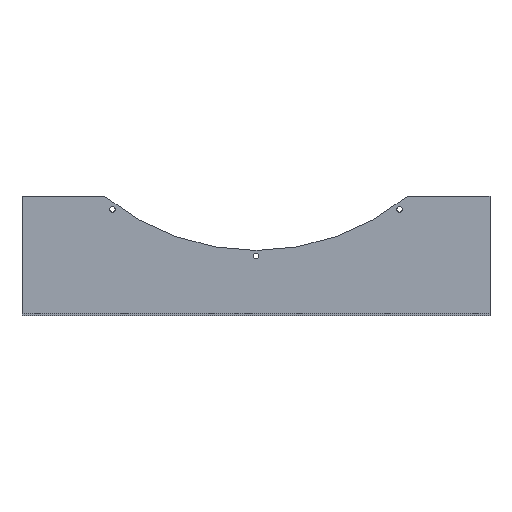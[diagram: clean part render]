
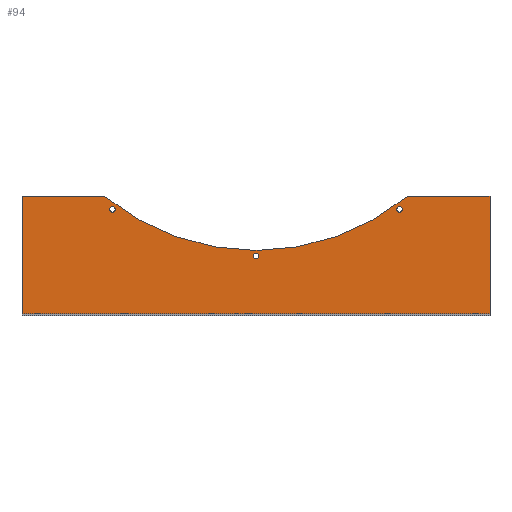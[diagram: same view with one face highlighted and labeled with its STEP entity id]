
A CAD part, top view. The second image highlights one B-rep face of the part: STEP entity #94.
In plain terms, the highlighted planar face has unit normal (0, 0, 1).
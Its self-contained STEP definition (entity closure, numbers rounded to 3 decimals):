
#94=ADVANCED_FACE('',(#191,#192,#193,#194),#195,.T.);
#191=FACE_BOUND('',#300,.T.);
#192=FACE_BOUND('',#301,.T.);
#193=FACE_BOUND('',#302,.T.);
#194=FACE_OUTER_BOUND('',#303,.T.);
#195=PLANE('',#304);
#300=EDGE_LOOP('',(#513,#514));
#301=EDGE_LOOP('',(#515,#516));
#302=EDGE_LOOP('',(#517,#518));
#303=EDGE_LOOP('',(#519,#520,#521,#522,#523,#524));
#304=AXIS2_PLACEMENT_3D('',#525,#526,#527);
#513=ORIENTED_EDGE('',*,*,#646,.T.);
#514=ORIENTED_EDGE('',*,*,#651,.T.);
#515=ORIENTED_EDGE('',*,*,#641,.T.);
#516=ORIENTED_EDGE('',*,*,#654,.T.);
#517=ORIENTED_EDGE('',*,*,#636,.T.);
#518=ORIENTED_EDGE('',*,*,#657,.T.);
#519=ORIENTED_EDGE('',*,*,#659,.T.);
#520=ORIENTED_EDGE('',*,*,#691,.F.);
#521=ORIENTED_EDGE('',*,*,#692,.F.);
#522=ORIENTED_EDGE('',*,*,#693,.F.);
#523=ORIENTED_EDGE('',*,*,#694,.F.);
#524=ORIENTED_EDGE('',*,*,#670,.F.);
#525=CARTESIAN_POINT('',(0.0,4.0,-26.0));
#526=DIRECTION('',(0.0,0.0,1.0));
#527=DIRECTION('',(1.0,0.0,0.0));
#636=EDGE_CURVE('',#768,#765,#769,.T.);
#641=EDGE_CURVE('',#777,#774,#778,.T.);
#646=EDGE_CURVE('',#786,#783,#787,.T.);
#651=EDGE_CURVE('',#783,#786,#793,.T.);
#654=EDGE_CURVE('',#774,#777,#796,.T.);
#657=EDGE_CURVE('',#765,#768,#799,.T.);
#659=EDGE_CURVE('',#801,#802,#803,.T.);
#670=EDGE_CURVE('',#801,#820,#821,.T.);
#691=EDGE_CURVE('',#842,#802,#843,.T.);
#692=EDGE_CURVE('',#844,#842,#845,.T.);
#693=EDGE_CURVE('',#846,#844,#847,.T.);
#694=EDGE_CURVE('',#820,#846,#848,.T.);
#765=VERTEX_POINT('',#935);
#768=VERTEX_POINT('',#939);
#769=CIRCLE('',#940,6.5);
#774=VERTEX_POINT('',#946);
#777=VERTEX_POINT('',#950);
#778=CIRCLE('',#951,6.5);
#783=VERTEX_POINT('',#957);
#786=VERTEX_POINT('',#961);
#787=CIRCLE('',#962,6.5);
#793=CIRCLE('',#969,6.5);
#796=CIRCLE('',#972,6.5);
#799=CIRCLE('',#975,6.5);
#801=VERTEX_POINT('',#977);
#802=VERTEX_POINT('',#978);
#803=CIRCLE('',#979,561.0);
#820=VERTEX_POINT('',#1003);
#821=LINE('',#1004,#1005);
#842=VERTEX_POINT('',#1027);
#843=LINE('',#1028,#1029);
#844=VERTEX_POINT('',#1030);
#845=LINE('',#1031,#1032);
#846=VERTEX_POINT('',#1033);
#847=LINE('',#1034,#1035);
#848=LINE('',#1036,#1037);
#935=CARTESIAN_POINT('',(6.5,0.,-26.0));
#939=CARTESIAN_POINT('',(-6.5,0.,-26.0));
#940=AXIS2_PLACEMENT_3D('',#1115,#1116,#1117);
#946=CARTESIAN_POINT('',(342.647,113.445,-26.0));
#950=CARTESIAN_POINT('',(332.13,105.804,-26.0));
#951=AXIS2_PLACEMENT_3D('',#1123,#1124,#1125);
#957=CARTESIAN_POINT('',(-332.13,105.804,-26.0));
#961=CARTESIAN_POINT('',(-342.647,113.445,-26.0));
#962=AXIS2_PLACEMENT_3D('',#1131,#1132,#1133);
#969=AXIS2_PLACEMENT_3D('',#1141,#1142,#1143);
#972=AXIS2_PLACEMENT_3D('',#1147,#1148,#1149);
#975=AXIS2_PLACEMENT_3D('',#1153,#1154,#1155);
#977=CARTESIAN_POINT('',(355.479,140.0,-26.0));
#978=CARTESIAN_POINT('',(-355.479,140.0,-26.0));
#979=AXIS2_PLACEMENT_3D('',#1156,#1157,#1158);
#1003=CARTESIAN_POINT('',(550.0,140.0,-26.0));
#1004=CARTESIAN_POINT('',(0.0,140.0,-26.0));
#1005=VECTOR('',#1169,1.0);
#1027=CARTESIAN_POINT('',(-550.0,140.0,-26.0));
#1028=CARTESIAN_POINT('',(0.0,140.0,-26.0));
#1029=VECTOR('',#1207,1.0);
#1030=CARTESIAN_POINT('',(-550.0,-136.0,-26.0));
#1031=CARTESIAN_POINT('',(-550.0,2.0,-26.0));
#1032=VECTOR('',#1208,1.0);
#1033=CARTESIAN_POINT('',(550.0,-136.0,-26.0));
#1034=CARTESIAN_POINT('',(0.0,-136.0,-26.0));
#1035=VECTOR('',#1209,1.0);
#1036=CARTESIAN_POINT('',(550.0,2.0,-26.0));
#1037=VECTOR('',#1210,1.0);
#1115=CARTESIAN_POINT('',(0.0,0.0,-26.0));
#1116=DIRECTION('',(0.0,0.0,-1.0));
#1117=DIRECTION('',(1.0,0.0,0.0));
#1123=CARTESIAN_POINT('',(337.389,109.624,-26.0));
#1124=DIRECTION('',(0.0,0.0,-1.0));
#1125=DIRECTION('',(0.809,0.588,0.0));
#1131=CARTESIAN_POINT('',(-337.389,109.624,-26.0));
#1132=DIRECTION('',(0.0,-0.0,-1.0));
#1133=DIRECTION('',(0.809,-0.588,0.0));
#1141=CARTESIAN_POINT('',(-337.389,109.624,-26.0));
#1142=DIRECTION('',(0.0,-0.0,-1.0));
#1143=DIRECTION('',(0.809,-0.588,0.0));
#1147=CARTESIAN_POINT('',(337.389,109.624,-26.0));
#1148=DIRECTION('',(0.0,0.0,-1.0));
#1149=DIRECTION('',(0.809,0.588,0.0));
#1153=CARTESIAN_POINT('',(0.0,0.0,-26.0));
#1154=DIRECTION('',(0.0,0.0,-1.0));
#1155=DIRECTION('',(1.0,0.0,0.0));
#1156=CARTESIAN_POINT('',(0.0,574.0,-26.0));
#1157=DIRECTION('',(0.0,0.0,-1.0));
#1158=DIRECTION('',(1.0,0.0,0.0));
#1169=DIRECTION('',(1.0,0.0,-0.0));
#1207=DIRECTION('',(1.0,0.0,-0.0));
#1208=DIRECTION('',(0.0,1.0,0.0));
#1209=DIRECTION('',(-1.0,0.0,0.0));
#1210=DIRECTION('',(0.0,-1.0,0.0));
